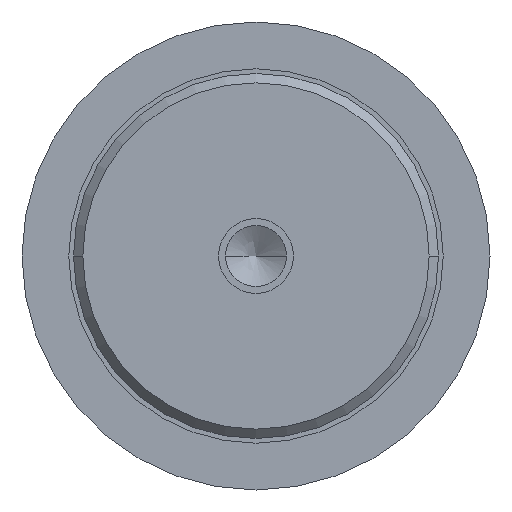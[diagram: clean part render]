
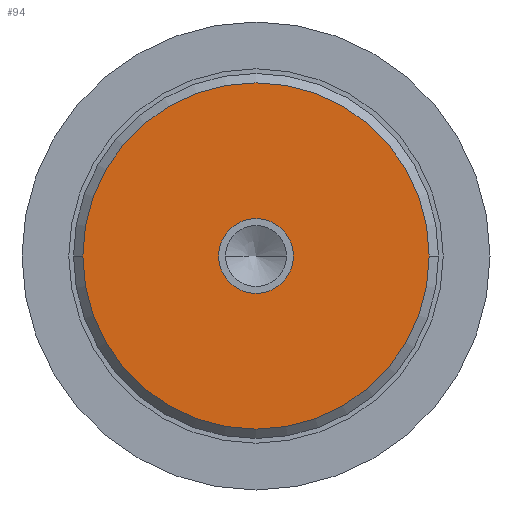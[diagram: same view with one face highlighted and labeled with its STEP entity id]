
A CAD part, left-side view. The second image highlights one B-rep face of the part: STEP entity #94.
In plain terms, the highlighted free-form (B-spline) face has degree [1, 1] with [2, 2] control points.
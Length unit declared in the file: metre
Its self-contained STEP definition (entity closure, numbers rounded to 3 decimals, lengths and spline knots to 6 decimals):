
#94 = ADVANCED_FACE( '', ( #155, #156 ), #157, .F. );
#155 = FACE_BOUND( '', #307, .T. );
#156 = FACE_OUTER_BOUND( '', #308, .T. );
#157 = B_SPLINE_SURFACE_WITH_KNOTS( '', 1, 1, ( ( #309, #310 ), ( #311, #312 ) ), .UNSPECIFIED., .F., .F., .F., ( 2, 2 ), ( 2, 2 ), ( 0., 1. ), ( 0., 1. ), .UNSPECIFIED. );
#307 = EDGE_LOOP( '', ( #503, #504 ) );
#308 = EDGE_LOOP( '', ( #505, #506 ) );
#309 = CARTESIAN_POINT( '', ( 0., -0.018722, -0.018722 ) );
#310 = CARTESIAN_POINT( '', ( 0., -0.018722, 0.018722 ) );
#311 = CARTESIAN_POINT( '', ( 0., 0.018722, -0.018722 ) );
#312 = CARTESIAN_POINT( '', ( 0., 0.018722, 0.018722 ) );
#503 = ORIENTED_EDGE( '', *, *, #686, .F. );
#504 = ORIENTED_EDGE( '', *, *, #684, .F. );
#505 = ORIENTED_EDGE( '', *, *, #689, .F. );
#506 = ORIENTED_EDGE( '', *, *, #690, .F. );
#684 = EDGE_CURVE( '', #778, #780, #781, .T. );
#686 = EDGE_CURVE( '', #780, #778, #783, .T. );
#689 = EDGE_CURVE( '', #787, #788, #789, .T. );
#690 = EDGE_CURVE( '', #788, #787, #790, .T. );
#778 = VERTEX_POINT( '', #910 );
#780 = VERTEX_POINT( '', #913 );
#781 = CIRCLE( '', #914, 0.004 );
#783 = CIRCLE( '', #917, 0.004 );
#787 = VERTEX_POINT( '', #923 );
#788 = VERTEX_POINT( '', #924 );
#789 = CIRCLE( '', #925, 0.0185 );
#790 = CIRCLE( '', #926, 0.0185 );
#910 = CARTESIAN_POINT( '', ( 0., -0.004, 0. ) );
#913 = CARTESIAN_POINT( '', ( 0., 0.004, 0. ) );
#914 = AXIS2_PLACEMENT_3D( '', #1076, #1077, #1078 );
#917 = AXIS2_PLACEMENT_3D( '', #1080, #1081, #1082 );
#923 = CARTESIAN_POINT( '', ( 0., 0.0185, 0. ) );
#924 = CARTESIAN_POINT( '', ( 0., -0.0185, 0. ) );
#925 = AXIS2_PLACEMENT_3D( '', #1085, #1086, #1087 );
#926 = AXIS2_PLACEMENT_3D( '', #1088, #1089, #1090 );
#1076 = CARTESIAN_POINT( '', ( 0., 0., 0. ) );
#1077 = DIRECTION( '', ( -1., 0., 0. ) );
#1078 = DIRECTION( '', ( 0., -1., 0. ) );
#1080 = CARTESIAN_POINT( '', ( 0., 0., 0. ) );
#1081 = DIRECTION( '', ( -1., 0., 0. ) );
#1082 = DIRECTION( '', ( 0., -1., 0. ) );
#1085 = CARTESIAN_POINT( '', ( 0., 0., 0. ) );
#1086 = DIRECTION( '', ( 1., 0., 0. ) );
#1087 = DIRECTION( '', ( 0., 1., 0. ) );
#1088 = CARTESIAN_POINT( '', ( 0., 0., 0. ) );
#1089 = DIRECTION( '', ( 1., 0., 0. ) );
#1090 = DIRECTION( '', ( 0., 1., 0. ) );
